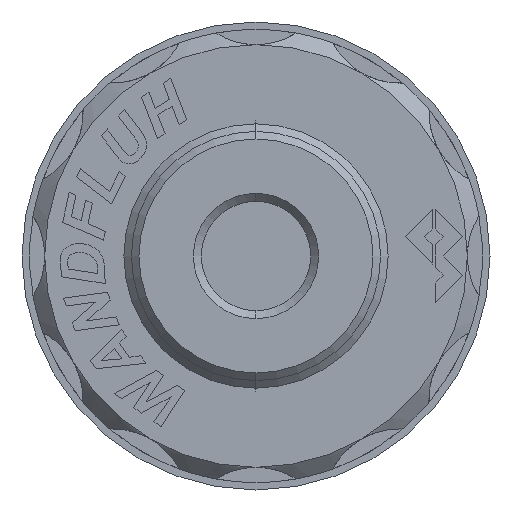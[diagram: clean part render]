
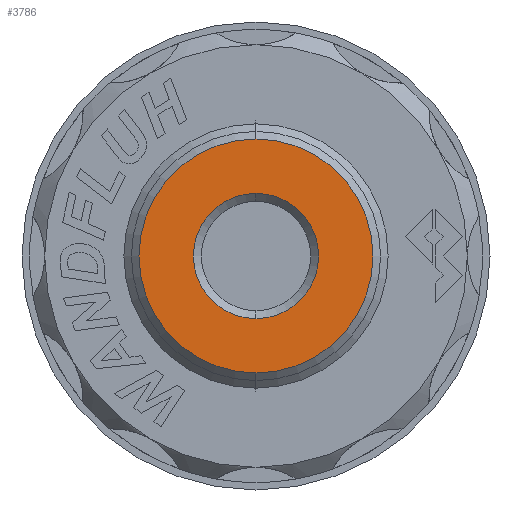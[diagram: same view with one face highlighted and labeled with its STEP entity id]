
A CAD part, left-side view. The second image highlights one B-rep face of the part: STEP entity #3786.
In plain terms, the highlighted planar face has unit normal (-1, 0, 0).
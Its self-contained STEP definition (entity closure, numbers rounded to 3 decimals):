
#85 = VERTEX_POINT ( 'NONE', #3649 ) ;
#275 = CARTESIAN_POINT ( 'NONE',  ( -87.1, 0., 0. ) ) ;
#652 = CIRCLE ( 'NONE', #16665, 7.75 ) ;
#1694 = DIRECTION ( 'NONE',  ( 0., 0., 1. ) ) ;
#1975 = FACE_BOUND ( 'NONE', #6892, .T. ) ;
#3280 = CARTESIAN_POINT ( 'NONE',  ( -87.1, 0., -4.15 ) ) ;
#3649 = CARTESIAN_POINT ( 'NONE',  ( -87.1, 0., 7.75 ) ) ;
#3786 = ADVANCED_FACE ( 'NONE', ( #5210, #1975 ), #12739, .T. ) ;
#4758 = CARTESIAN_POINT ( 'NONE',  ( -87.1, 0., 0. ) ) ;
#4939 = DIRECTION ( 'NONE',  ( -1., 0., 0. ) ) ;
#5123 = ORIENTED_EDGE ( 'NONE', *, *, #11827, .T. ) ;
#5210 = FACE_OUTER_BOUND ( 'NONE', #12174, .T. ) ;
#5445 = CIRCLE ( 'NONE', #8931, 4.15 ) ;
#5852 = DIRECTION ( 'NONE',  ( -1., 0., 0. ) ) ;
#6156 = DIRECTION ( 'NONE',  ( 0., 0., 1. ) ) ;
#6538 = CARTESIAN_POINT ( 'NONE',  ( -87.1, 0., 0. ) ) ;
#6699 = AXIS2_PLACEMENT_3D ( 'NONE', #6538, #16404, #7934 ) ;
#6892 = EDGE_LOOP ( 'NONE', ( #14753, #16648 ) ) ;
#7406 = VERTEX_POINT ( 'NONE', #8572 ) ;
#7934 = DIRECTION ( 'NONE',  ( 0., 0., 1. ) ) ;
#8283 = AXIS2_PLACEMENT_3D ( 'NONE', #275, #10004, #1694 ) ;
#8314 = VERTEX_POINT ( 'NONE', #3280 ) ;
#8484 = CIRCLE ( 'NONE', #6699, 4.15 ) ;
#8572 = CARTESIAN_POINT ( 'NONE',  ( -87.1, 0., -7.75 ) ) ;
#8931 = AXIS2_PLACEMENT_3D ( 'NONE', #13303, #4939, #14777 ) ;
#10004 = DIRECTION ( 'NONE',  ( -1., 0., 0. ) ) ;
#10087 = CARTESIAN_POINT ( 'NONE',  ( -87.1, 0., 4.15 ) ) ;
#11239 = VERTEX_POINT ( 'NONE', #10087 ) ;
#11397 = EDGE_CURVE ( 'NONE', #8314, #11239, #8484, .T. ) ;
#11460 = CIRCLE ( 'NONE', #14888, 7.75 ) ;
#11827 = EDGE_CURVE ( 'NONE', #7406, #85, #652, .T. ) ;
#12174 = EDGE_LOOP ( 'NONE', ( #5123, #17485 ) ) ;
#12739 = PLANE ( 'NONE',  #8283 ) ;
#13303 = CARTESIAN_POINT ( 'NONE',  ( -87.1, 0., 0. ) ) ;
#14278 = CARTESIAN_POINT ( 'NONE',  ( -87.1, 0., 0. ) ) ;
#14581 = DIRECTION ( 'NONE',  ( -1., 0., 0. ) ) ;
#14753 = ORIENTED_EDGE ( 'NONE', *, *, #16544, .F. ) ;
#14777 = DIRECTION ( 'NONE',  ( 0., 0., 1. ) ) ;
#14888 = AXIS2_PLACEMENT_3D ( 'NONE', #14278, #5852, #15710 ) ;
#15710 = DIRECTION ( 'NONE',  ( 0., 0., 1. ) ) ;
#16404 = DIRECTION ( 'NONE',  ( -1., 0., 0. ) ) ;
#16544 = EDGE_CURVE ( 'NONE', #11239, #8314, #5445, .T. ) ;
#16648 = ORIENTED_EDGE ( 'NONE', *, *, #11397, .F. ) ;
#16665 = AXIS2_PLACEMENT_3D ( 'NONE', #4758, #14581, #6156 ) ;
#17485 = ORIENTED_EDGE ( 'NONE', *, *, #17807, .T. ) ;
#17807 = EDGE_CURVE ( 'NONE', #85, #7406, #11460, .T. ) ;
